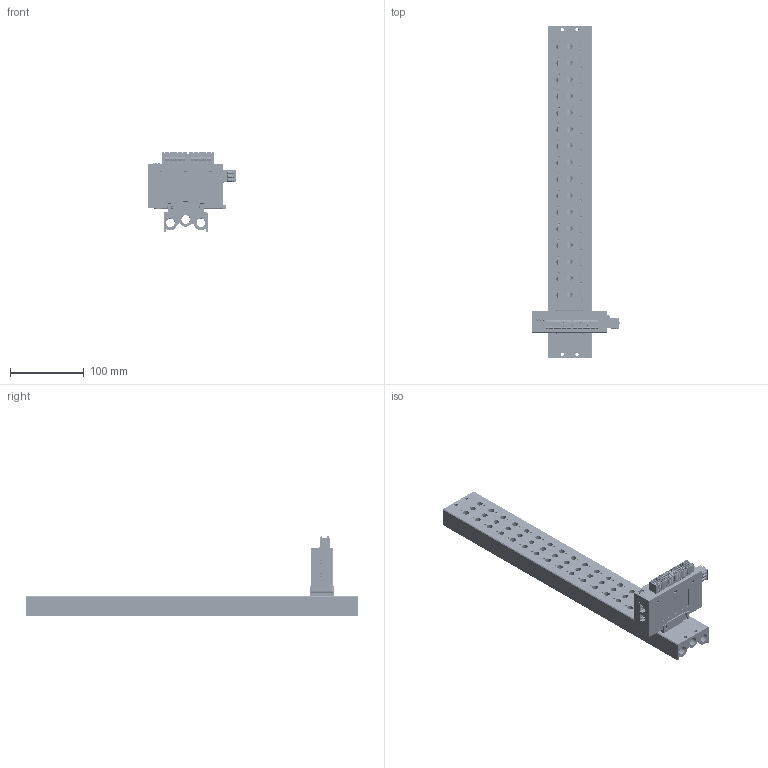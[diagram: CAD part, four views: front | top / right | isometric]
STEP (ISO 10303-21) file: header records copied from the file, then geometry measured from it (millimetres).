
FILE_DESCRIPTION(/* description */ (''),/* implementation_level */ '2;1');
FILE_NAME(/* name */ '',/* time_stamp */ '2025-10-09T16:38:42+08:00',/* author */ (''),/* organization */ (''),/* preprocessor_version */ 'ST-DEVELOPER v14',/* originating_system */ 'SIEMENS PLM Software NX 8.0',/* authorisation */ '');
FILE_SCHEMA (('AP203_CONFIGURATION_CONTROLLED_3D_DESIGN_OF_MECHANICAL_PARTS_AND_ASSEMBLIES_MIM_LF { 1 0 10303 403 2 1 2}'));
Products named in the file (1): DELL3E5857E9ucwr
Bounding box: 119.8 x 451 x 108.48 mm (x, y, z)
Volume: 603885 mm3; surface area: 204215.9 mm2
Topology: 2 solids, 228 shells, 9842 faces, 26070 edges, 16969 vertices
Faces by surface type: plane 6416, cylinder 2315, torus 336, bspline 336, cone 253, sphere 95, extrusion 91
Full cylindrical faces by diameter (mm): 0.18 x2, 2.5 x37, 3.05 x40, 3.3 x3, 3.5 x4, 4 x3, 4.5 x4, 6 x4, 8 x48, 11.492 x1, 11.5 x5, 11.8 x6
Entity records: 323978 total; most frequent: CARTESIAN_POINT 82045, ORIENTED_EDGE 50804, DIRECTION 48431, EDGE_CURVE 25402, VECTOR 18101, LINE 18010, VERTEX_POINT 16791, AXIS2_PLACEMENT_3D 15165
